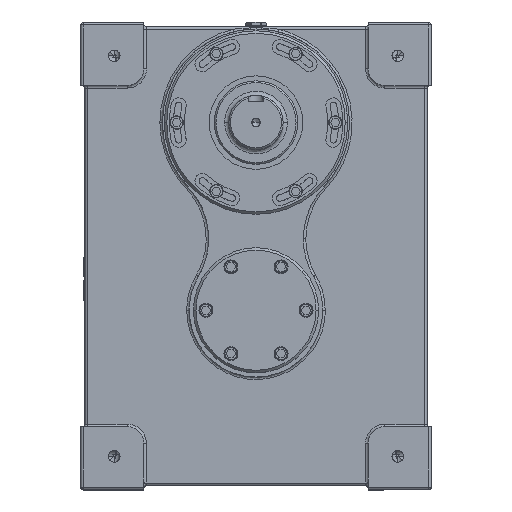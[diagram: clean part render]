
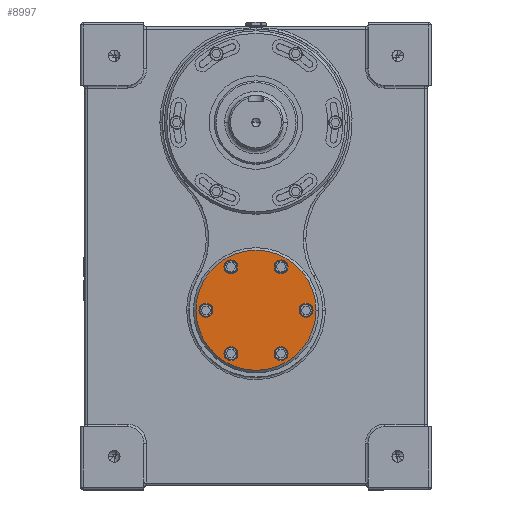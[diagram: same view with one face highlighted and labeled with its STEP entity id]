
A CAD part, top view. The second image highlights one B-rep face of the part: STEP entity #8997.
In plain terms, the highlighted planar face has unit normal (0, 0, 1).
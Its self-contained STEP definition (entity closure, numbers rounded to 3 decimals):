
#195 = DIRECTION ( 'NONE',  ( 0., 0., -1. ) ) ;
#218 = DIRECTION ( 'NONE',  ( 0., 0., -1. ) ) ;
#379 = CIRCLE ( 'NONE', #4275, 8.4 ) ;
#2058 = VERTEX_POINT ( 'NONE', #28470 ) ;
#2283 = CARTESIAN_POINT ( 'NONE',  ( -38.4, -276.962, 135. ) ) ;
#2808 = DIRECTION ( 'NONE',  ( 0., 0., -1. ) ) ;
#2877 = AXIS2_PLACEMENT_3D ( 'NONE', #31777, #68649, #37155 ) ;
#2983 = AXIS2_PLACEMENT_3D ( 'NONE', #60786, #29162, #66074 ) ;
#3433 = VERTEX_POINT ( 'NONE', #64353 ) ;
#3480 = VERTEX_POINT ( 'NONE', #65267 ) ;
#4275 = AXIS2_PLACEMENT_3D ( 'NONE', #44297, #12442, #49596 ) ;
#4516 = CIRCLE ( 'NONE', #28622, 8.4 ) ;
#5876 = VERTEX_POINT ( 'NONE', #63648 ) ;
#5994 = ORIENTED_EDGE ( 'NONE', *, *, #52215, .T. ) ;
#6299 = DIRECTION ( 'NONE',  ( 0., 0., -1. ) ) ;
#7514 = EDGE_LOOP ( 'NONE', ( #10315, #19673 ) ) ;
#8054 = DIRECTION ( 'NONE',  ( 0., 0., -1. ) ) ;
#8997 = ADVANCED_FACE ( 'NONE', ( #38551, #66561, #11896, #24398, #10266, #64913, #50951 ), #54633, .T. ) ;
#10266 = FACE_BOUND ( 'NONE', #50049, .T. ) ;
#10315 = ORIENTED_EDGE ( 'NONE', *, *, #50920, .T. ) ;
#11073 = DIRECTION ( 'NONE',  ( 0., 0., -1. ) ) ;
#11207 = CIRCLE ( 'NONE', #42543, 8.4 ) ;
#11896 = FACE_BOUND ( 'NONE', #44475, .T. ) ;
#12442 = DIRECTION ( 'NONE',  ( 0., 0., -1. ) ) ;
#12603 = DIRECTION ( 'NONE',  ( 0., 0., -1. ) ) ;
#13353 = CIRCLE ( 'NONE', #37898, 8.4 ) ;
#13764 = DIRECTION ( 'NONE',  ( 0., 0., -1. ) ) ;
#14449 = CARTESIAN_POINT ( 'NONE',  ( -21.6, -173.038, 135. ) ) ;
#16140 = CIRCLE ( 'NONE', #62431, 8.4 ) ;
#16439 = EDGE_CURVE ( 'NONE', #68556, #5876, #42795, .T. ) ;
#17120 = ORIENTED_EDGE ( 'NONE', *, *, #35127, .T. ) ;
#17275 = CARTESIAN_POINT ( 'NONE',  ( 38.4, -276.962, 135. ) ) ;
#19059 = VERTEX_POINT ( 'NONE', #52851 ) ;
#19193 = VERTEX_POINT ( 'NONE', #59506 ) ;
#19673 = ORIENTED_EDGE ( 'NONE', *, *, #34730, .T. ) ;
#20607 = DIRECTION ( 'NONE',  ( 0., 0., -1. ) ) ;
#20781 = CIRCLE ( 'NONE', #2877, 8.4 ) ;
#21178 = CIRCLE ( 'NONE', #34215, 72. ) ;
#22495 = EDGE_LOOP ( 'NONE', ( #64690, #17120 ) ) ;
#23412 = AXIS2_PLACEMENT_3D ( 'NONE', #32036, #195, #37394 ) ;
#24398 = FACE_BOUND ( 'NONE', #56382, .T. ) ;
#24538 = AXIS2_PLACEMENT_3D ( 'NONE', #53788, #53775, #53703 ) ;
#26085 = CIRCLE ( 'NONE', #54756, 8.4 ) ;
#27856 = ORIENTED_EDGE ( 'NONE', *, *, #53295, .T. ) ;
#28278 = EDGE_LOOP ( 'NONE', ( #34521, #48225 ) ) ;
#28280 = CARTESIAN_POINT ( 'NONE',  ( 30., -173.038, 135. ) ) ;
#28301 = AXIS2_PLACEMENT_3D ( 'NONE', #44463, #12603, #49769 ) ;
#28470 = CARTESIAN_POINT ( 'NONE',  ( -68.4, -225., 135. ) ) ;
#28540 = CARTESIAN_POINT ( 'NONE',  ( 0., -225., 135. ) ) ;
#28622 = AXIS2_PLACEMENT_3D ( 'NONE', #32056, #218, #37421 ) ;
#29162 = DIRECTION ( 'NONE',  ( 0., 0., -1. ) ) ;
#31330 = ORIENTED_EDGE ( 'NONE', *, *, #34717, .T. ) ;
#31452 = CIRCLE ( 'NONE', #28301, 8.4 ) ;
#31777 = CARTESIAN_POINT ( 'NONE',  ( 30., -276.962, 135. ) ) ;
#32036 = CARTESIAN_POINT ( 'NONE',  ( 30., -276.962, 135. ) ) ;
#32056 = CARTESIAN_POINT ( 'NONE',  ( -30., -173.038, 135. ) ) ;
#33626 = DIRECTION ( 'NONE',  ( 1., 0., 0. ) ) ;
#33892 = DIRECTION ( 'NONE',  ( -1., 0., 0. ) ) ;
#34129 = AXIS2_PLACEMENT_3D ( 'NONE', #42935, #11073, #48257 ) ;
#34215 = AXIS2_PLACEMENT_3D ( 'NONE', #28540, #65472, #33892 ) ;
#34390 = EDGE_CURVE ( 'NONE', #51897, #55361, #11207, .T. ) ;
#34500 = EDGE_CURVE ( 'NONE', #56863, #47685, #66666, .T. ) ;
#34521 = ORIENTED_EDGE ( 'NONE', *, *, #16439, .F. ) ;
#34595 = EDGE_CURVE ( 'NONE', #50467, #3433, #52682, .T. ) ;
#34643 = CARTESIAN_POINT ( 'NONE',  ( 0., -225., 135. ) ) ;
#34717 = EDGE_CURVE ( 'NONE', #19193, #19059, #16140, .T. ) ;
#34730 = EDGE_CURVE ( 'NONE', #67385, #45963, #379, .T. ) ;
#35127 = EDGE_CURVE ( 'NONE', #2058, #3480, #66590, .T. ) ;
#35863 = ORIENTED_EDGE ( 'NONE', *, *, #55550, .T. ) ;
#37155 = DIRECTION ( 'NONE',  ( 1., 0., 0. ) ) ;
#37394 = DIRECTION ( 'NONE',  ( 1., 0., 0. ) ) ;
#37421 = DIRECTION ( 'NONE',  ( 1., 0., 0. ) ) ;
#37898 = AXIS2_PLACEMENT_3D ( 'NONE', #45639, #13764, #50900 ) ;
#38193 = CARTESIAN_POINT ( 'NONE',  ( 60., -225., 135. ) ) ;
#38551 = FACE_BOUND ( 'NONE', #22495, .T. ) ;
#39898 = CARTESIAN_POINT ( 'NONE',  ( -60., -225., 135. ) ) ;
#39968 = DIRECTION ( 'NONE',  ( -1., 0., 0. ) ) ;
#40308 = EDGE_CURVE ( 'NONE', #5876, #68556, #21178, .T. ) ;
#41052 = AXIS2_PLACEMENT_3D ( 'NONE', #39898, #8054, #45222 ) ;
#42543 = AXIS2_PLACEMENT_3D ( 'NONE', #52390, #20607, #57718 ) ;
#42795 = CIRCLE ( 'NONE', #58407, 72. ) ;
#42935 = CARTESIAN_POINT ( 'NONE',  ( 60., -225., 135. ) ) ;
#43527 = DIRECTION ( 'NONE',  ( 1., 0., 0. ) ) ;
#44297 = CARTESIAN_POINT ( 'NONE',  ( -30., -173.038, 135. ) ) ;
#44463 = CARTESIAN_POINT ( 'NONE',  ( -30., -276.962, 135. ) ) ;
#44475 = EDGE_LOOP ( 'NONE', ( #5994, #31330 ) ) ;
#44582 = CIRCLE ( 'NONE', #41052, 8.4 ) ;
#45222 = DIRECTION ( 'NONE',  ( 1., 0., 0. ) ) ;
#45639 = CARTESIAN_POINT ( 'NONE',  ( 30., -173.038, 135. ) ) ;
#45963 = VERTEX_POINT ( 'NONE', #14449 ) ;
#46745 = CARTESIAN_POINT ( 'NONE',  ( 51.6, -225., 135. ) ) ;
#47685 = VERTEX_POINT ( 'NONE', #17275 ) ;
#48225 = ORIENTED_EDGE ( 'NONE', *, *, #40308, .F. ) ;
#48257 = DIRECTION ( 'NONE',  ( 1., 0., 0. ) ) ;
#48521 = EDGE_LOOP ( 'NONE', ( #35863, #61031 ) ) ;
#49409 = CARTESIAN_POINT ( 'NONE',  ( -38.4, -173.038, 135. ) ) ;
#49596 = DIRECTION ( 'NONE',  ( 1., 0., 0. ) ) ;
#49769 = DIRECTION ( 'NONE',  ( 1., 0., 0. ) ) ;
#49807 = EDGE_CURVE ( 'NONE', #3480, #2058, #44582, .T. ) ;
#50049 = EDGE_LOOP ( 'NONE', ( #55384, #51572 ) ) ;
#50467 = VERTEX_POINT ( 'NONE', #46745 ) ;
#50900 = DIRECTION ( 'NONE',  ( 1., 0., 0. ) ) ;
#50920 = EDGE_CURVE ( 'NONE', #45963, #67385, #4516, .T. ) ;
#50951 = FACE_OUTER_BOUND ( 'NONE', #28278, .T. ) ;
#51425 = ORIENTED_EDGE ( 'NONE', *, *, #34595, .T. ) ;
#51572 = ORIENTED_EDGE ( 'NONE', *, *, #34500, .T. ) ;
#51897 = VERTEX_POINT ( 'NONE', #2283 ) ;
#52215 = EDGE_CURVE ( 'NONE', #19059, #19193, #13353, .T. ) ;
#52390 = CARTESIAN_POINT ( 'NONE',  ( -30., -276.962, 135. ) ) ;
#52682 = CIRCLE ( 'NONE', #34129, 8.4 ) ;
#52851 = CARTESIAN_POINT ( 'NONE',  ( 38.4, -173.038, 135. ) ) ;
#53295 = EDGE_CURVE ( 'NONE', #3433, #50467, #26085, .T. ) ;
#53703 = DIRECTION ( 'NONE',  ( 1., 0., 0. ) ) ;
#53775 = DIRECTION ( 'NONE',  ( 0., 0., 1. ) ) ;
#53788 = CARTESIAN_POINT ( 'NONE',  ( 0., -225., 135. ) ) ;
#54426 = EDGE_CURVE ( 'NONE', #47685, #56863, #20781, .T. ) ;
#54633 = PLANE ( 'NONE',  #24538 ) ;
#54756 = AXIS2_PLACEMENT_3D ( 'NONE', #38193, #6299, #43527 ) ;
#55361 = VERTEX_POINT ( 'NONE', #62027 ) ;
#55384 = ORIENTED_EDGE ( 'NONE', *, *, #54426, .T. ) ;
#55550 = EDGE_CURVE ( 'NONE', #55361, #51897, #31452, .T. ) ;
#56382 = EDGE_LOOP ( 'NONE', ( #27856, #51425 ) ) ;
#56673 = CARTESIAN_POINT ( 'NONE',  ( 21.6, -276.962, 135. ) ) ;
#56863 = VERTEX_POINT ( 'NONE', #56673 ) ;
#57718 = DIRECTION ( 'NONE',  ( 1., 0., 0. ) ) ;
#58407 = AXIS2_PLACEMENT_3D ( 'NONE', #34643, #2808, #39968 ) ;
#58651 = CARTESIAN_POINT ( 'NONE',  ( -72., -225., 135. ) ) ;
#59506 = CARTESIAN_POINT ( 'NONE',  ( 21.6, -173.038, 135. ) ) ;
#60786 = CARTESIAN_POINT ( 'NONE',  ( -60., -225., 135. ) ) ;
#61031 = ORIENTED_EDGE ( 'NONE', *, *, #34390, .T. ) ;
#62027 = CARTESIAN_POINT ( 'NONE',  ( -21.6, -276.962, 135. ) ) ;
#62431 = AXIS2_PLACEMENT_3D ( 'NONE', #28280, #65230, #33626 ) ;
#63648 = CARTESIAN_POINT ( 'NONE',  ( 72., -225., 135. ) ) ;
#64353 = CARTESIAN_POINT ( 'NONE',  ( 68.4, -225., 135. ) ) ;
#64690 = ORIENTED_EDGE ( 'NONE', *, *, #49807, .T. ) ;
#64913 = FACE_BOUND ( 'NONE', #48521, .T. ) ;
#65230 = DIRECTION ( 'NONE',  ( 0., 0., -1. ) ) ;
#65267 = CARTESIAN_POINT ( 'NONE',  ( -51.6, -225., 135. ) ) ;
#65472 = DIRECTION ( 'NONE',  ( 0., 0., -1. ) ) ;
#66074 = DIRECTION ( 'NONE',  ( 1., 0., 0. ) ) ;
#66561 = FACE_BOUND ( 'NONE', #7514, .T. ) ;
#66590 = CIRCLE ( 'NONE', #2983, 8.4 ) ;
#66666 = CIRCLE ( 'NONE', #23412, 8.4 ) ;
#67385 = VERTEX_POINT ( 'NONE', #49409 ) ;
#68556 = VERTEX_POINT ( 'NONE', #58651 ) ;
#68649 = DIRECTION ( 'NONE',  ( 0., 0., -1. ) ) ;
